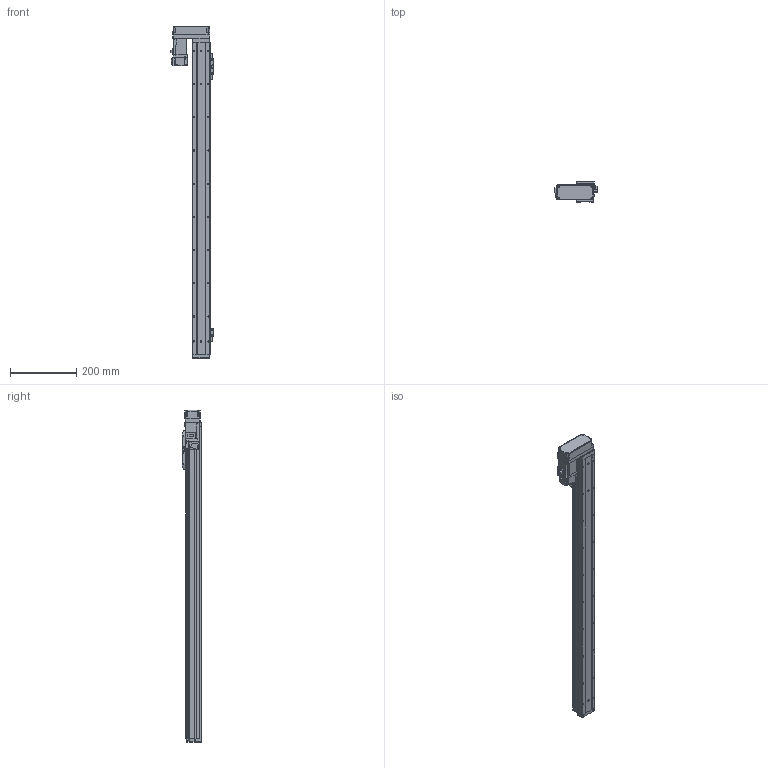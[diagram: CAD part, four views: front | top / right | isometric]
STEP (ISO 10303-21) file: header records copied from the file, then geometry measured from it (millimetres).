
FILE_DESCRIPTION (( 'STEP AP214' ), '1' );
FILE_NAME ('N_GRH5-800-BR-M10.step', '2025-03-14T10:58:29', ( '' ), ( '' ), 'SwSTEP 2.0', 'SolidWorks 2016', '' );
FILE_SCHEMA (( 'AUTOMOTIVE_DESIGN' ));
Length unit declared in the file: millimetre
Products named in the file (5): N_GRH5-GY-004^N_GRH5-800-BR-M10; N_GRH5-800-BR-M10; HF-KP13_100W_Motor^N_GRH5-800-BR-M10; N_GRH5-GY-011^N_GRH5-800-BR-M10; N_GRH5-BL-008^N_GRH5-800-BR-M10
Assembly tree (4 placements, depth 2):
  N_GRH5-800-BR-M10
    N_GRH5-GY-011^N_GRH5-800-BR-M10
    N_GRH5-GY-004^N_GRH5-800-BR-M10
    HF-KP13_100W_Motor^N_GRH5-800-BR-M10
    N_GRH5-BL-008^N_GRH5-800-BR-M10
Bounding box: 128.85 x 60 x 1000 mm (x, y, z)
Volume: 1781900.2 mm3; surface area: 460417 mm2
Topology: 4 solids, 5 shells, 984 faces, 2504 edges, 1589 vertices
Faces by surface type: plane 557, cylinder 352, cone 50, bspline 15, sphere 10
Entity records: 37347 total; most frequent: CARTESIAN_POINT 5843, DIRECTION 5105, ORIENTED_EDGE 4944, EDGE_CURVE 2472, AXIS2_PLACEMENT_3D 1715, LINE 1675, VECTOR 1675, VERTEX_POINT 1587
